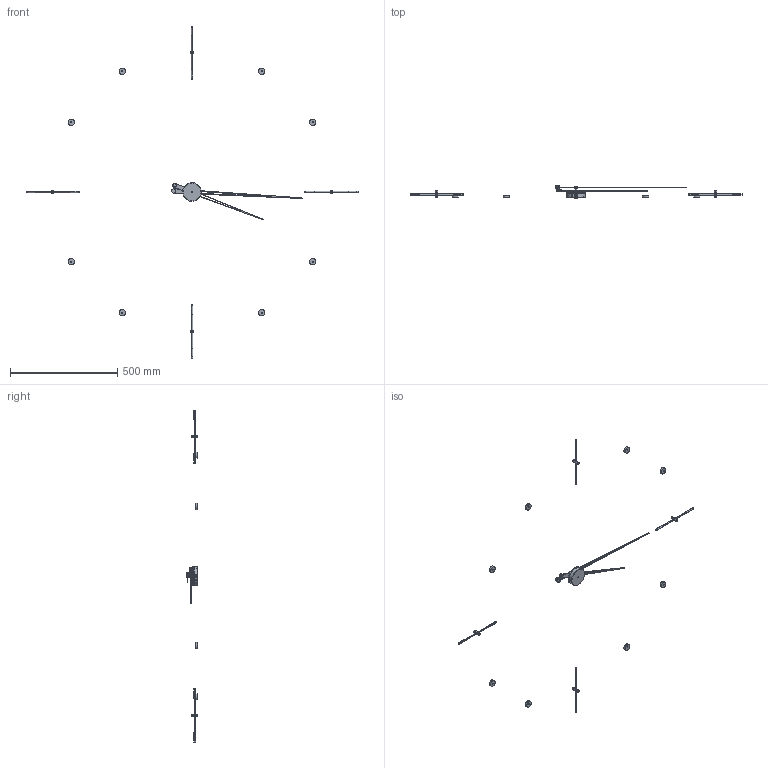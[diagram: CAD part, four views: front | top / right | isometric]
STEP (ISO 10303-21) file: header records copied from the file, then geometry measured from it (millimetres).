
FILE_DESCRIPTION (( 'STEP AP214' ), '1' );
FILE_NAME ('Mixto n_155.STEP', '2016-09-14T08:17:03', ( '' ), ( '' ), 'SwSTEP 2.0', 'SolidWorks 2013', '' );
FILE_SCHEMA (( 'AUTOMOTIVE_DESIGN' ));
Length unit declared in the file: millimetre
Products named in the file (27): Esparrago_roscado_merlin; Esparrago; Anclaje_señal_horaria_merlin; Mixto n_155; Señal_horaria_merlín; Aguja_minutera_calada_nogal; Contrapeso grande; aguja_horaria_calada_nogal; aguja_minutera_calada_nogal; Embellecedor; Arandela_2; Señal_horaria_rodón; Caja_acero_inox; Aguja_horaria_calada_nogal; Pasante; Contrapeso_pequeño; Embellecedor_señal_horaria_merlín; Pieza_caja_superior; Pieza2; Mecanismo; Casquillo_señal_horaria_merlín; Tuerca 1.5; Cierre_contrapeso; Varilla_nogal_señal_horaria_merlín; Tuerca; Pieza_caja_inferior; Axioma_n_100
Assembly tree (39 placements, depth 4):
  Mixto n_155
    Axioma_n_100
      Caja_acero_inox
        Pieza_caja_inferior
        Pieza_caja_superior
        Mecanismo
        Pieza2
      Aguja_horaria_calada_nogal
        aguja_horaria_calada_nogal
        Contrapeso_pequeño
        Cierre_contrapeso
        Arandela_2
        Tuerca
        Pasante
      Aguja_minutera_calada_nogal
        aguja_minutera_calada_nogal
        Contrapeso grande  x2
        Arandela_2
        Embellecedor
        Esparrago
        Tuerca 1.5
    Señal_horaria_merlín  x4
      Anclaje_señal_horaria_merlin
      Casquillo_señal_horaria_merlín
      Embellecedor_señal_horaria_merlín
      Esparrago_roscado_merlin
      Varilla_nogal_señal_horaria_merlín
    Señal_horaria_rodón  x8
Bounding box: 1550.18 x 55.1 x 1550.18 mm (x, y, z)
Volume: 185369.3 mm3; surface area: 152516 mm2
Topology: 49 solids, 49 shells, 428 faces, 860 edges, 558 vertices
Faces by surface type: cylinder 232, plane 158, torus 26, cone 12
Entity records: 8014 total; most frequent: CARTESIAN_POINT 1381, DIRECTION 1360, ORIENTED_EDGE 1012, AXIS2_PLACEMENT_3D 577, EDGE_CURVE 506, VERTEX_POINT 322, EDGE_LOOP 290, CIRCLE 288
